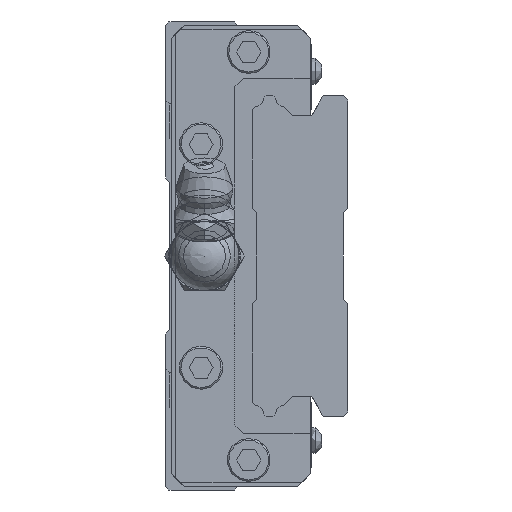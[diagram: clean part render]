
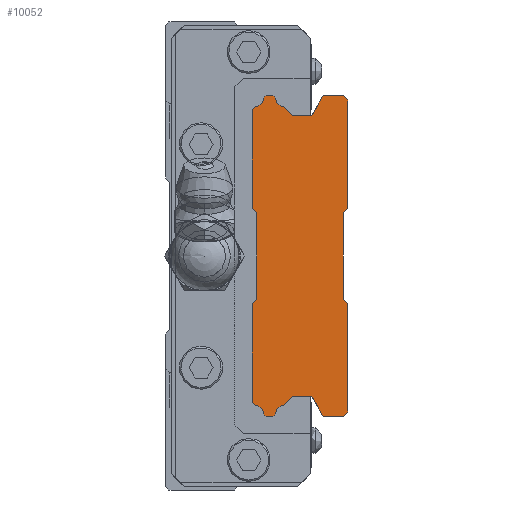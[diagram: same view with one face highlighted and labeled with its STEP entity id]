
A CAD part, left-side view. The second image highlights one B-rep face of the part: STEP entity #10052.
In plain terms, the highlighted planar face has unit normal (-1, 0, 0).
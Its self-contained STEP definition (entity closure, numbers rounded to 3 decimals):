
#488=LINE('',#16093,#1086);
#498=LINE('',#16114,#1096);
#505=LINE('',#16129,#1103);
#514=LINE('',#16147,#1112);
#517=LINE('',#16152,#1115);
#524=LINE('',#16164,#1122);
#533=LINE('',#16183,#1131);
#536=LINE('',#16189,#1134);
#542=LINE('',#16201,#1140);
#551=LINE('',#16219,#1149);
#554=LINE('',#16225,#1152);
#560=LINE('',#16237,#1158);
#565=LINE('',#16306,#1163);
#571=LINE('',#16378,#1169);
#580=LINE('',#16396,#1178);
#583=LINE('',#16461,#1181);
#591=LINE('',#16537,#1189);
#594=LINE('',#16603,#1192);
#600=LINE('',#16675,#1198);
#609=LINE('',#16693,#1207);
#612=LINE('',#16759,#1210);
#618=LINE('',#16831,#1216);
#623=LINE('',#16844,#1221);
#626=LINE('',#16850,#1224);
#628=LINE('',#16853,#1226);
#630=LINE('',#16856,#1228);
#633=LINE('',#16862,#1231);
#636=LINE('',#16874,#1234);
#1086=VECTOR('',#12825,1000.);
#1096=VECTOR('',#12837,1000.);
#1103=VECTOR('',#12848,1000.);
#1112=VECTOR('',#12859,1000.);
#1115=VECTOR('',#12864,1000.);
#1122=VECTOR('',#12875,1000.);
#1131=VECTOR('',#12886,1000.);
#1134=VECTOR('',#12891,1000.);
#1140=VECTOR('',#12901,1000.);
#1149=VECTOR('',#12912,1000.);
#1152=VECTOR('',#12917,1000.);
#1158=VECTOR('',#12927,1000.);
#1163=VECTOR('',#12994,1000.);
#1169=VECTOR('',#13064,1000.);
#1178=VECTOR('',#13075,1000.);
#1181=VECTOR('',#13140,1000.);
#1189=VECTOR('',#13212,1000.);
#1192=VECTOR('',#13277,1000.);
#1198=VECTOR('',#13347,1000.);
#1207=VECTOR('',#13358,1000.);
#1210=VECTOR('',#13423,1000.);
#1216=VECTOR('',#13493,1000.);
#1221=VECTOR('',#13506,1000.);
#1224=VECTOR('',#13511,1000.);
#1226=VECTOR('',#13515,1000.);
#1228=VECTOR('',#13519,1000.);
#1231=VECTOR('',#13524,1000.);
#1234=VECTOR('',#13541,1000.);
#1461=PLANE('',#11091);
#2201=CIRCLE('',#11073,1.19);
#2203=CIRCLE('',#11081,1.19);
#2205=CIRCLE('',#11084,1.19);
#2207=CIRCLE('',#11088,1.19);
#4033=ORIENTED_EDGE('',*,*,#5413,.F.);
#4034=ORIENTED_EDGE('',*,*,#5439,.F.);
#4035=ORIENTED_EDGE('',*,*,#5799,.T.);
#4036=ORIENTED_EDGE('',*,*,#5773,.F.);
#4037=ORIENTED_EDGE('',*,*,#5737,.F.);
#4038=ORIENTED_EDGE('',*,*,#5704,.F.);
#4039=ORIENTED_EDGE('',*,*,#5797,.F.);
#4040=ORIENTED_EDGE('',*,*,#5695,.F.);
#4041=ORIENTED_EDGE('',*,*,#5659,.F.);
#4042=ORIENTED_EDGE('',*,*,#5626,.F.);
#4043=ORIENTED_EDGE('',*,*,#5795,.T.);
#4044=ORIENTED_EDGE('',*,*,#5475,.F.);
#4045=ORIENTED_EDGE('',*,*,#5469,.F.);
#4046=ORIENTED_EDGE('',*,*,#5466,.F.);
#4047=ORIENTED_EDGE('',*,*,#5793,.T.);
#4048=ORIENTED_EDGE('',*,*,#5790,.F.);
#4049=ORIENTED_EDGE('',*,*,#5787,.F.);
#4050=ORIENTED_EDGE('',*,*,#5457,.F.);
#4051=ORIENTED_EDGE('',*,*,#5451,.F.);
#4052=ORIENTED_EDGE('',*,*,#5448,.F.);
#4053=ORIENTED_EDGE('',*,*,#5588,.F.);
#4054=ORIENTED_EDGE('',*,*,#5555,.F.);
#4055=ORIENTED_EDGE('',*,*,#5785,.F.);
#4056=ORIENTED_EDGE('',*,*,#5546,.F.);
#4057=ORIENTED_EDGE('',*,*,#5510,.F.);
#4058=ORIENTED_EDGE('',*,*,#5403,.F.);
#4059=ORIENTED_EDGE('',*,*,#5432,.F.);
#4060=ORIENTED_EDGE('',*,*,#5429,.F.);
#4061=ORIENTED_EDGE('',*,*,#5783,.F.);
#4062=ORIENTED_EDGE('',*,*,#5780,.F.);
#4063=ORIENTED_EDGE('',*,*,#5777,.T.);
#4064=ORIENTED_EDGE('',*,*,#5420,.F.);
#5403=EDGE_CURVE('',#6444,#6445,#488,.T.);
#5413=EDGE_CURVE('',#6454,#6455,#498,.T.);
#5420=EDGE_CURVE('',#6455,#6461,#505,.T.);
#5429=EDGE_CURVE('',#6468,#6469,#514,.T.);
#5432=EDGE_CURVE('',#6469,#6444,#517,.T.);
#5439=EDGE_CURVE('',#6472,#6454,#524,.T.);
#5448=EDGE_CURVE('',#6481,#6482,#533,.T.);
#5451=EDGE_CURVE('',#6482,#6484,#536,.T.);
#5457=EDGE_CURVE('',#6484,#6488,#542,.T.);
#5466=EDGE_CURVE('',#6495,#6496,#551,.T.);
#5469=EDGE_CURVE('',#6496,#6498,#554,.T.);
#5475=EDGE_CURVE('',#6498,#6502,#560,.T.);
#5510=EDGE_CURVE('',#6445,#6535,#565,.T.);
#5546=EDGE_CURVE('',#6535,#6569,#571,.T.);
#5555=EDGE_CURVE('',#6576,#6577,#580,.T.);
#5588=EDGE_CURVE('',#6577,#6481,#583,.T.);
#5626=EDGE_CURVE('',#6643,#6644,#591,.T.);
#5659=EDGE_CURVE('',#6644,#6676,#594,.T.);
#5695=EDGE_CURVE('',#6676,#6710,#600,.T.);
#5704=EDGE_CURVE('',#6717,#6718,#609,.T.);
#5737=EDGE_CURVE('',#6718,#6750,#612,.T.);
#5773=EDGE_CURVE('',#6750,#6784,#618,.T.);
#5777=EDGE_CURVE('',#6786,#6461,#2201,.T.);
#5780=EDGE_CURVE('',#6786,#6788,#623,.T.);
#5783=EDGE_CURVE('',#6788,#6468,#626,.T.);
#5785=EDGE_CURVE('',#6569,#6576,#628,.T.);
#5787=EDGE_CURVE('',#6488,#6790,#630,.T.);
#5790=EDGE_CURVE('',#6790,#6792,#633,.T.);
#5793=EDGE_CURVE('',#6495,#6792,#2203,.T.);
#5795=EDGE_CURVE('',#6643,#6502,#2205,.T.);
#5797=EDGE_CURVE('',#6710,#6717,#636,.T.);
#5799=EDGE_CURVE('',#6472,#6784,#2207,.T.);
#6444=VERTEX_POINT('',#16092);
#6445=VERTEX_POINT('',#16094);
#6454=VERTEX_POINT('',#16113);
#6455=VERTEX_POINT('',#16115);
#6461=VERTEX_POINT('',#16130);
#6468=VERTEX_POINT('',#16146);
#6469=VERTEX_POINT('',#16148);
#6472=VERTEX_POINT('',#16163);
#6481=VERTEX_POINT('',#16182);
#6482=VERTEX_POINT('',#16184);
#6484=VERTEX_POINT('',#16190);
#6488=VERTEX_POINT('',#16202);
#6495=VERTEX_POINT('',#16218);
#6496=VERTEX_POINT('',#16220);
#6498=VERTEX_POINT('',#16226);
#6502=VERTEX_POINT('',#16238);
#6535=VERTEX_POINT('',#16307);
#6569=VERTEX_POINT('',#16379);
#6576=VERTEX_POINT('',#16395);
#6577=VERTEX_POINT('',#16397);
#6643=VERTEX_POINT('',#16536);
#6644=VERTEX_POINT('',#16538);
#6676=VERTEX_POINT('',#16604);
#6710=VERTEX_POINT('',#16676);
#6717=VERTEX_POINT('',#16692);
#6718=VERTEX_POINT('',#16694);
#6750=VERTEX_POINT('',#16760);
#6784=VERTEX_POINT('',#16832);
#6786=VERTEX_POINT('',#16839);
#6788=VERTEX_POINT('',#16845);
#6790=VERTEX_POINT('',#16857);
#6792=VERTEX_POINT('',#16863);
#7658=EDGE_LOOP('',(#4033,#4034,#4035,#4036,#4037,#4038,#4039,#4040,#4041,
#4042,#4043,#4044,#4045,#4046,#4047,#4048,#4049,#4050,#4051,#4052,#4053,
#4054,#4055,#4056,#4057,#4058,#4059,#4060,#4061,#4062,#4063,#4064));
#9001=FACE_BOUND('',#7658,.T.);
#10052=ADVANCED_FACE('',(#9001),#1461,.F.);
#11073=AXIS2_PLACEMENT_3D('',#16838,#13499,#13500);
#11081=AXIS2_PLACEMENT_3D('',#16868,#13529,#13530);
#11084=AXIS2_PLACEMENT_3D('',#16871,#13535,#13536);
#11088=AXIS2_PLACEMENT_3D('',#16877,#13545,#13546);
#11091=AXIS2_PLACEMENT_3D('',#16880,#13551,#13552);
#12825=DIRECTION('',(0.,-0.707,-0.707));
#12837=DIRECTION('',(0.,-1.,0.));
#12848=DIRECTION('',(0.,-0.707,-0.707));
#12859=DIRECTION('',(0.,-0.493,0.87));
#12864=DIRECTION('',(0.,-1.,0.));
#12875=DIRECTION('',(0.,-0.707,0.707));
#12886=DIRECTION('',(0.,0.707,-0.707));
#12891=DIRECTION('',(0.,1.,0.));
#12901=DIRECTION('',(0.,0.493,0.87));
#12912=DIRECTION('',(0.,0.707,-0.707));
#12917=DIRECTION('',(0.,1.,0.));
#12927=DIRECTION('',(0.,0.707,0.707));
#12994=DIRECTION('',(0.,0.,-1.));
#13064=DIRECTION('',(0.,0.707,-0.707));
#13075=DIRECTION('',(0.,-0.707,-0.707));
#13140=DIRECTION('',(0.,0.,-1.));
#13212=DIRECTION('',(0.,0.707,0.707));
#13277=DIRECTION('',(0.,0.,1.));
#13347=DIRECTION('',(0.,-0.707,0.707));
#13358=DIRECTION('',(0.,0.707,0.707));
#13423=DIRECTION('',(0.,0.,1.));
#13493=DIRECTION('',(0.,-0.707,0.707));
#13499=DIRECTION('',(1.,0.,0.));
#13500=DIRECTION('',(0.,0.,-1.));
#13506=DIRECTION('',(0.,-0.707,-0.707));
#13511=DIRECTION('',(0.,-1.,0.));
#13515=DIRECTION('',(0.,0.,-1.));
#13519=DIRECTION('',(0.,1.,0.));
#13524=DIRECTION('',(0.,0.707,-0.707));
#13529=DIRECTION('',(1.,0.,0.));
#13530=DIRECTION('',(0.,0.,-1.));
#13535=DIRECTION('',(1.,0.,0.));
#13536=DIRECTION('',(0.,0.,-1.));
#13541=DIRECTION('',(0.,0.,1.));
#13545=DIRECTION('',(1.,0.,0.));
#13546=DIRECTION('',(0.,0.,-1.));
#13551=DIRECTION('',(1.,0.,0.));
#13552=DIRECTION('',(0.,0.,-1.));
#16092=CARTESIAN_POINT('',(-25.,0.5,18.5));
#16093=CARTESIAN_POINT('',(-25.,0.5,18.5));
#16094=CARTESIAN_POINT('',(-25.,0.,18.));
#16113=CARTESIAN_POINT('',(-25.,9.385,18.5));
#16114=CARTESIAN_POINT('',(-25.,9.385,18.5));
#16115=CARTESIAN_POINT('',(-25.,8.62,18.5));
#16129=CARTESIAN_POINT('',(-25.,8.62,18.5));
#16130=CARTESIAN_POINT('',(-25.,8.337,18.217));
#16146=CARTESIAN_POINT('',(-25.,4.117,16.2));
#16147=CARTESIAN_POINT('',(-25.,4.117,16.2));
#16148=CARTESIAN_POINT('',(-25.,2.812,18.5));
#16152=CARTESIAN_POINT('',(-25.,2.812,18.5));
#16163=CARTESIAN_POINT('',(-25.,9.663,18.222));
#16164=CARTESIAN_POINT('',(-25.,9.663,18.222));
#16182=CARTESIAN_POINT('',(-25.,0.,-18.));
#16183=CARTESIAN_POINT('',(-25.,0.,-18.));
#16184=CARTESIAN_POINT('',(-25.,0.5,-18.5));
#16189=CARTESIAN_POINT('',(-25.,0.5,-18.5));
#16190=CARTESIAN_POINT('',(-25.,2.812,-18.5));
#16201=CARTESIAN_POINT('',(-25.,2.812,-18.5));
#16202=CARTESIAN_POINT('',(-25.,4.117,-16.2));
#16218=CARTESIAN_POINT('',(-25.,8.337,-18.217));
#16219=CARTESIAN_POINT('',(-25.,8.337,-18.217));
#16220=CARTESIAN_POINT('',(-25.,8.62,-18.5));
#16225=CARTESIAN_POINT('',(-25.,8.62,-18.5));
#16226=CARTESIAN_POINT('',(-25.,9.385,-18.5));
#16237=CARTESIAN_POINT('',(-25.,9.385,-18.5));
#16238=CARTESIAN_POINT('',(-25.,9.663,-18.222));
#16306=CARTESIAN_POINT('',(-25.,0.,18.));
#16307=CARTESIAN_POINT('',(-25.,0.,5.5));
#16378=CARTESIAN_POINT('',(-25.,0.,5.5));
#16379=CARTESIAN_POINT('',(-25.,0.5,5.));
#16395=CARTESIAN_POINT('',(-25.,0.5,-5.));
#16396=CARTESIAN_POINT('',(-25.,0.5,-5.));
#16397=CARTESIAN_POINT('',(-25.,0.,-5.5));
#16461=CARTESIAN_POINT('',(-25.,0.,-5.5));
#16536=CARTESIAN_POINT('',(-25.,10.729,-17.156));
#16537=CARTESIAN_POINT('',(-25.,10.729,-17.156));
#16538=CARTESIAN_POINT('',(-25.,11.,-16.885));
#16603=CARTESIAN_POINT('',(-25.,11.,-16.885));
#16604=CARTESIAN_POINT('',(-25.,11.,-5.5));
#16675=CARTESIAN_POINT('',(-25.,11.,-5.5));
#16676=CARTESIAN_POINT('',(-25.,10.5,-5.));
#16692=CARTESIAN_POINT('',(-25.,10.5,5.));
#16693=CARTESIAN_POINT('',(-25.,10.5,5.));
#16694=CARTESIAN_POINT('',(-25.,11.,5.5));
#16759=CARTESIAN_POINT('',(-25.,11.,5.5));
#16760=CARTESIAN_POINT('',(-25.,11.,16.885));
#16831=CARTESIAN_POINT('',(-25.,11.,16.885));
#16832=CARTESIAN_POINT('',(-25.,10.729,17.156));
#16838=CARTESIAN_POINT('',(-25.,7.153,18.34));
#16839=CARTESIAN_POINT('',(-25.,7.276,17.156));
#16844=CARTESIAN_POINT('',(-25.,7.276,17.156));
#16845=CARTESIAN_POINT('',(-25.,6.32,16.2));
#16850=CARTESIAN_POINT('',(-25.,6.32,16.2));
#16853=CARTESIAN_POINT('',(-25.,0.5,5.));
#16856=CARTESIAN_POINT('',(-25.,4.117,-16.2));
#16857=CARTESIAN_POINT('',(-25.,6.32,-16.2));
#16862=CARTESIAN_POINT('',(-25.,6.32,-16.2));
#16863=CARTESIAN_POINT('',(-25.,7.276,-17.156));
#16868=CARTESIAN_POINT('',(-25.,7.153,-18.34));
#16871=CARTESIAN_POINT('',(-25.,10.847,-18.34));
#16874=CARTESIAN_POINT('',(-25.,10.5,-5.));
#16877=CARTESIAN_POINT('',(-25.,10.847,18.34));
#16880=CARTESIAN_POINT('',(-25.,7.153,18.34));
